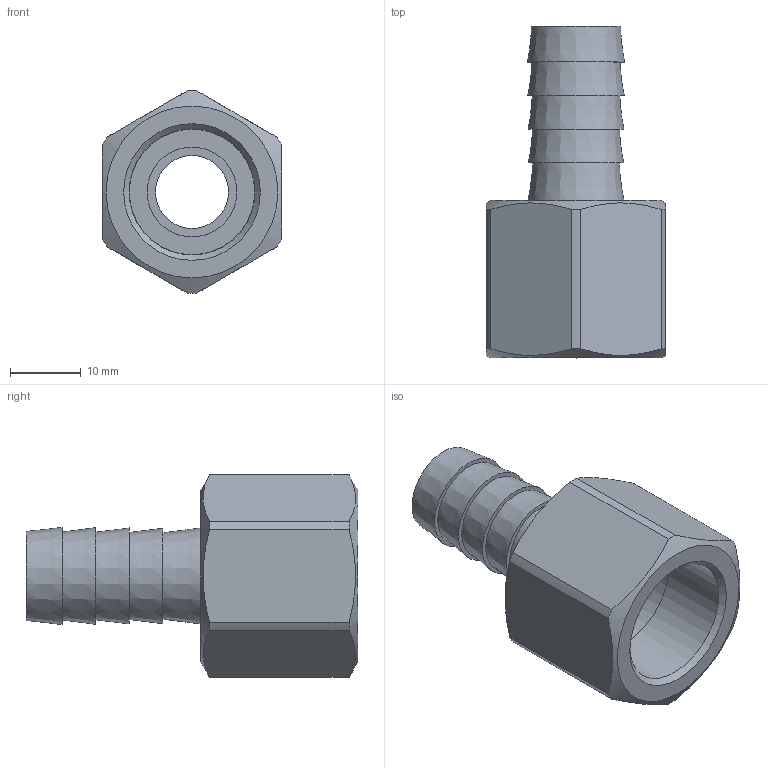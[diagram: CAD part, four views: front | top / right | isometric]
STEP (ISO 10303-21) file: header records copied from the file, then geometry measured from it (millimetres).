
FILE_DESCRIPTION(/* description */ (''),/* implementation_level */ '2;1');
FILE_NAME(/* name */ 'C:/Users/drich/Desktop/FB50-8 v1.step',/* time_stamp */ '2020-02-09T10:48:51-06:00',/* author */ (''),/* organization */ (''),/* preprocessor_version */ 'ST-DEVELOPER v18',/* originating_system */ 'Autodesk Translation Framework v8.12.0.6',/* authorisation */ '');
FILE_SCHEMA (('AUTOMOTIVE_DESIGN { 1 0 10303 214 3 1 1 }'));
Length unit declared in the file: inch
Products named in the file (2): FB50-8; 50 BARB ONLY
Assembly tree (1 placements, depth 2):
  FB50-8
    50 BARB ONLY
Bounding box: 25.4 x 46.86 x 28.57 mm (x, y, z)
Volume: 8522.4 mm3; surface area: 5851.6 mm2
Topology: 2 solids, 2 shells, 35 faces, 92 edges, 66 vertices
Faces by surface type: plane 15, cone 10, cylinder 10
Full cylindrical faces by diameter (mm): 10.312 x1, 12.7 x1, 17.729 x1, 17.78 x1
Entity records: 1191 total; most frequent: CARTESIAN_POINT 220, DIRECTION 210, ORIENTED_EDGE 184, EDGE_CURVE 92, AXIS2_PLACEMENT_3D 92, VERTEX_POINT 66, CIRCLE 54, EDGE_LOOP 44
